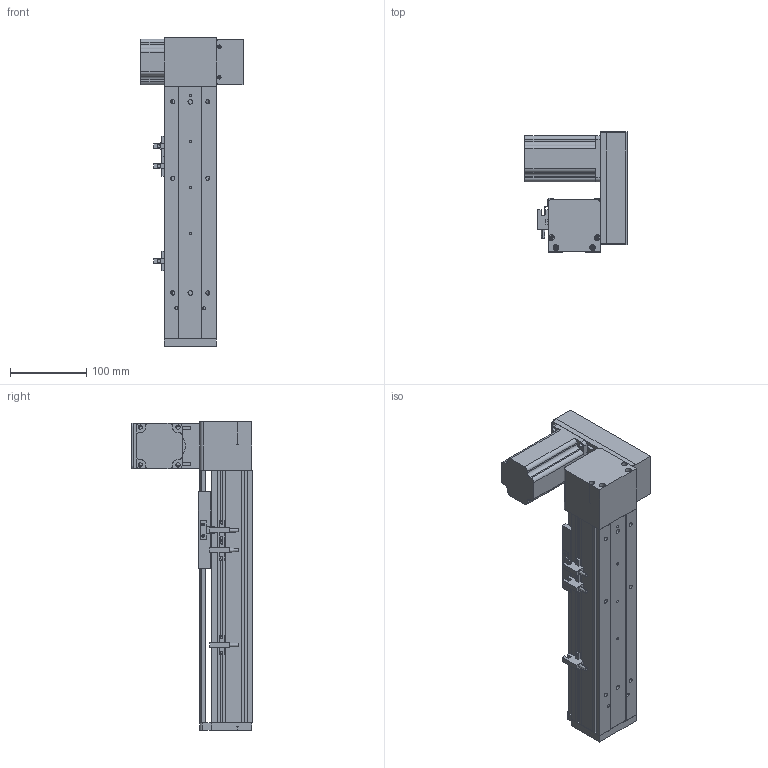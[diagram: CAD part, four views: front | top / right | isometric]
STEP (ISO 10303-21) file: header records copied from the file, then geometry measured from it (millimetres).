
FILE_DESCRIPTION (( 'STEP AP203' ), '1' );
FILE_NAME ('ML68-S150-UL.STEP', '2016-08-04T12:29:09', ( '' ), ( '' ), 'SwSTEP 2.0', 'SolidWorks 2014', '' );
FILE_SCHEMA (( 'CONFIG_CONTROL_DESIGN' ));
Length unit declared in the file: millimetre
Products named in the file (11): QS68左右折电机板罩子; 三协电机MH201N2_預設; ML68-BR傷啣; 60換覜結え; 換覜ん; QS68酘衵殏萇儂啣; ML68傷啣; ML68雄赽釱; ML68奻裔^ML68-S150-UL; ML68-S150-UL; ML68菁釱^ML68-S150-UL
Assembly tree (12 placements, depth 2):
  ML68-S150-UL
    ML68菁釱^ML68-S150-UL
    ML68奻裔^ML68-S150-UL
    60換覜結え
    ML68-BR傷啣
    換覜ん  x3
    ML68傷啣
    三协电机MH201N2_預設
    ML68雄赽釱
    QS68酘衵殏萇儂啣
    QS68左右折电机板罩子
Bounding box: 133.5 x 157 x 404 mm (x, y, z)
Volume: 1144766 mm3; surface area: 369068.5 mm2
Topology: 12 solids, 12 shells, 803 faces, 2200 edges, 1395 vertices
Faces by surface type: cylinder 360, plane 351, cone 92
Entity records: 25023 total; most frequent: CARTESIAN_POINT 4565, DIRECTION 4140, ORIENTED_EDGE 3908, EDGE_CURVE 1954, AXIS2_PLACEMENT_3D 1486, VERTEX_POINT 1283, LINE 1168, VECTOR 1168
